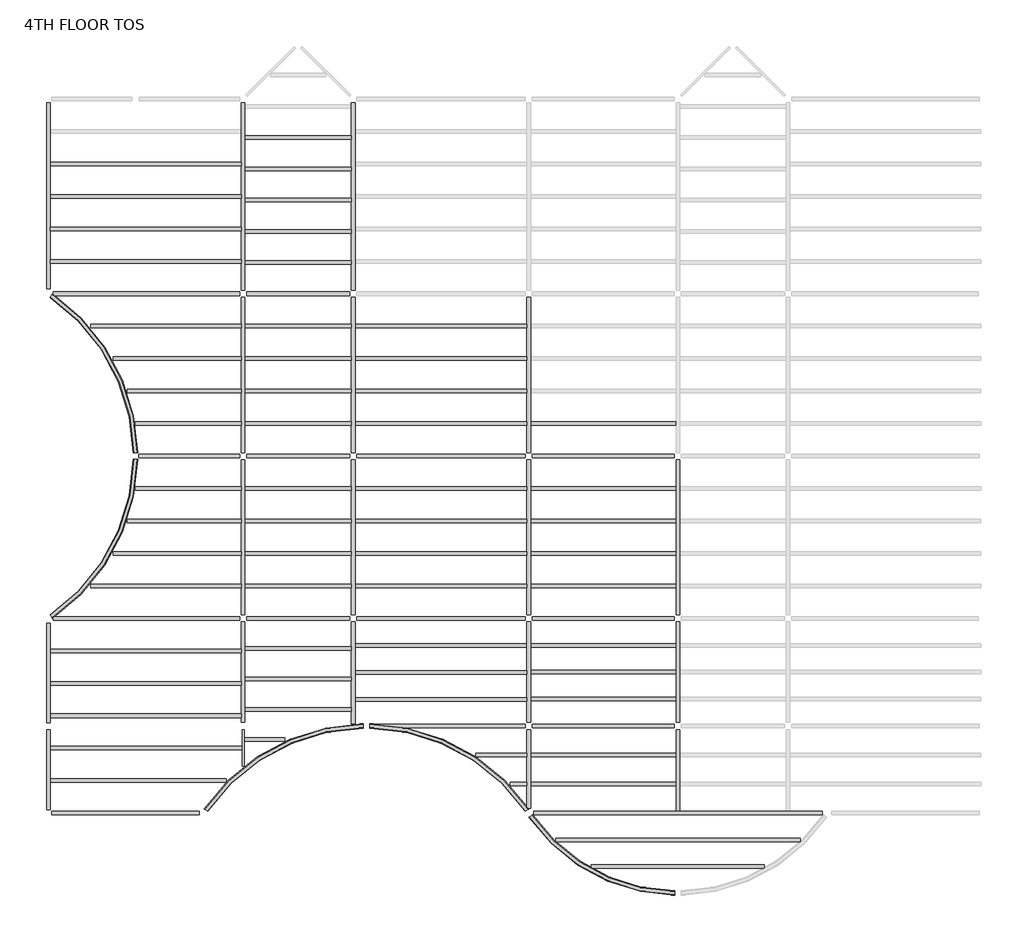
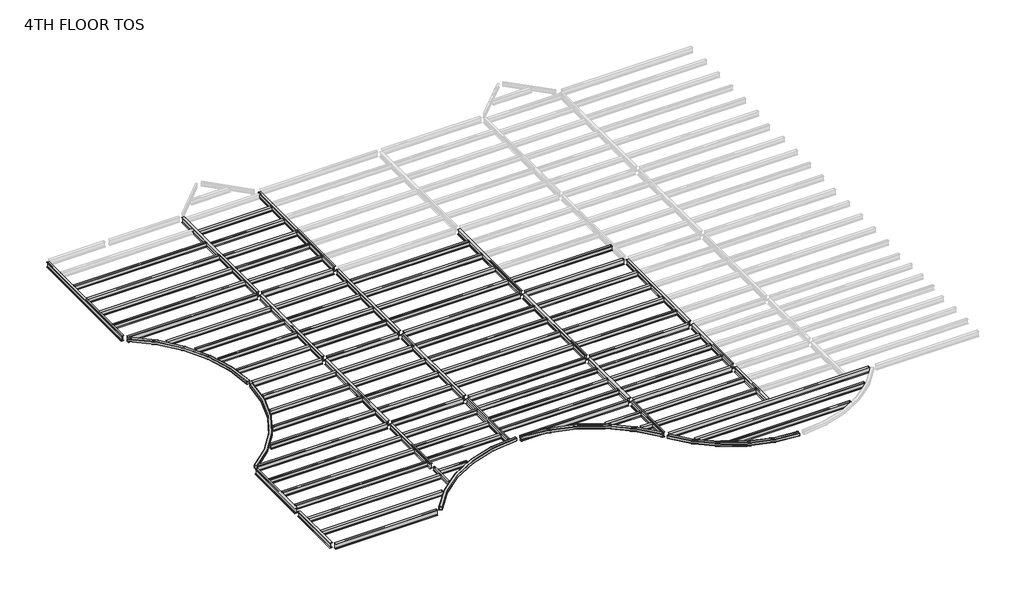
# One storey, part 1 of 2: 97 beams.
"""IFC4 building model written with IfcOpenShell, lengths in millimetres."""

from ifc_helpers import new_model, si_unit, origin, place, context, project, spatial, transform, mapped, element, save
from components import m_hss_square_hss203_2x203_2x9_5_914ff4eb, m_hss_square_hss203_2x203_2x9_5_0e3d8e6e, m_hss_square_hss203_2x203_2x9_5_16dc1c03, m_hss_square_hss203_2x203_2x9_5_18346204, m_hss_square_hss203_2x203_2x9_5_d5f1e8c4, ub_universal_beams_ub254x102x28_4e7f3726, ub_universal_beams_ub305x165x40_c4d0385b, ub_universal_beams_ub305x165x40_d3abc31d, ub_universal_beams_ub305x165x40_0c73730f, ub_universal_beams_ub305x165x40_2a963f0c, ub_universal_beams_ub305x165x40_0a5f2f96, ub_universal_beams_ub305x165x40_d1f7c369, ub_universal_beams_ub305x165x40_83d7b7d5, ub_universal_beams_ub305x165x40_729a4ea5, ub_universal_beams_ub305x165x40_71dfa851, ub_universal_beams_ub305x165x40_619b5398, ub_universal_beams_ub305x165x40_c3492db1, ub_universal_beams_ub305x165x40_8f1c350d, ub_universal_beams_ub305x165x40_3afb5f90, ub_universal_beams_ub305x165x40_767d1929, ub_universal_beams_ub305x165x40_5941ca45, ub_universal_beams_ub356x171x51_ef72dcdd, ub_universal_beams_ub356x171x51_7f80702c, ub_universal_beams_ub356x171x51_dfc36663, ub_universal_beams_ub356x171x51_405a853e, ub_universal_beams_ub356x171x51_e47b7055, ub_universal_beams_ub356x171x51_e97f8d2e, ub_universal_beams_ub356x171x51_11d6b780, ub_universal_beams_ub356x171x51_76b2d20b, ub_universal_beams_ub356x171x51_145ecd4b, ub_universal_beams_ub356x171x51_c7dff8d2, ub_universal_beams_ub356x171x51_834c6e34, ub_universal_beams_ub356x171x51_a38b99de, ub_universal_beams_ub356x171x51_d8f4cdde, ub_universal_beams_ub356x171x51_8094f821, ub_universal_beams_ub356x171x51_c03c70fb, ub_universal_beams_ub356x171x51_e661f2e4, ub_universal_beams_ub356x171x51_3ee91673, ub_universal_beams_ub356x171x51_a871b283, ub_universal_beams_ub356x171x51_741bae58

model = new_model("IFC4")

# Units and contexts
model_context = context("Model", 3, world=origin())
ifc_project = project(units=[si_unit("LENGTHUNIT", "METRE", prefix="MILLI")], contexts=[model_context])

# Site, building, storey
site = spatial("IfcSite", under=ifc_project)
building = spatial("IfcBuilding", under=site)
storey = spatial("IfcBuildingStorey", under=building, Name="4TH FLOOR TOS", Elevation=18135.6)

# Beams
placement = place(None, origin())
m_hss_square_hss203_2x203_2x9_5_shape = m_hss_square_hss203_2x203_2x9_5_914ff4eb(model_context)
element("IfcBeam", 1, ObjectType="M_HSS Square : HSS203.2X203.2X9.5", at=placement, inside=storey, context=model_context, shape_type="MappedRepresentation", body=[
    mapped(m_hss_square_hss203_2x203_2x9_5_shape, transform((22710.575, 155.575, 18034.1), x_axis=(-0.552849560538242, 0.8332810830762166, 0.0), y_axis=(-0.8332810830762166, -0.552849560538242, 0.0), z_axis=(0.0, 0.0, 1.0))),
])
m_hss_square_hss203_2x203_2x9_5_2_shape = m_hss_square_hss203_2x203_2x9_5_0e3d8e6e(model_context)
element("IfcBeam", 2, ObjectType="M_HSS Square : HSS203.2X203.2X9.5", at=placement, inside=storey, context=model_context, shape_type="MappedRepresentation", body=[
    mapped(m_hss_square_hss203_2x203_2x9_5_2_shape, transform((155.575, 9299.575, 18034.1), x_axis=(0.8332810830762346, 0.5528495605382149, 0.0), y_axis=(-0.5528495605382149, 0.8332810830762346, 0.0), z_axis=(0.0, 0.0, 1.0))),
])
m_hss_square_hss203_2x203_2x9_5_3_shape = m_hss_square_hss203_2x203_2x9_5_16dc1c03(model_context)
element("IfcBeam", 3, ObjectType="M_HSS Square : HSS203.2X203.2X9.5", at=placement, inside=storey, context=model_context, shape_type="MappedRepresentation", body=[
    mapped(m_hss_square_hss203_2x203_2x9_5_3_shape, transform((155.575, 24539.575, 18034.1), x_axis=(0.8332810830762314, -0.5528495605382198, 0.0), y_axis=(0.5528495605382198, 0.8332810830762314, 0.0), z_axis=(0.0, 0.0, 1.0))),
])
m_hss_square_hss203_2x203_2x9_5_4_shape = m_hss_square_hss203_2x203_2x9_5_18346204(model_context)
element("IfcBeam", 4, ObjectType="M_HSS Square : HSS203.2X203.2X9.5", at=placement, inside=storey, context=model_context, shape_type="MappedRepresentation", body=[
    mapped(m_hss_square_hss203_2x203_2x9_5_4_shape, transform((29734.7266693, -3601.398624, 18034.1), x_axis=(-0.9999968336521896, -0.0025164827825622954, 0.0), y_axis=(0.0025164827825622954, -0.9999968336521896, 0.0), z_axis=(0.0, 0.0, 1.0))),
])
m_hss_square_hss203_2x203_2x9_5_5_shape = m_hss_square_hss203_2x203_2x9_5_d5f1e8c4(model_context)
element("IfcBeam", 5, ObjectType="M_HSS Square : HSS203.2X203.2X9.5", at=placement, inside=storey, context=model_context, shape_type="MappedRepresentation", body=[
    mapped(m_hss_square_hss203_2x203_2x9_5_5_shape, transform((15096.4572854, 4244.5731081, 18034.1), x_axis=(-0.9999997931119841, 0.0006432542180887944, 0.0), y_axis=(-0.0006432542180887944, -0.9999997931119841, 0.0), z_axis=(0.0, 0.0, 1.0))),
])
ub_universal_beams_ub254x102x28_shape = ub_universal_beams_ub254x102x28_4e7f3726(model_context)
element("IfcBeam", 6, ObjectType="UB-Universal Beams : UB254x102x28", at=placement, inside=storey, context=model_context, shape_type="MappedRepresentation", body=[
    mapped(ub_universal_beams_ub254x102x28_shape, transform((9299.575, 3210.915913, 18005.4), x_axis=(0.0, -1.0, 0.0), y_axis=(1.0, 0.0, 0.0), z_axis=(0.0, 0.0, 1.0))),
])
ub_universal_beams_ub305x165x40_shape = ub_universal_beams_ub305x165x40_c4d0385b(model_context)
element("IfcBeam", 7, ObjectType="UB-Universal Beams : UB305x165x40", at=placement, inside=storey, context=model_context, shape_type="MappedRepresentation", body=[
    mapped(ub_universal_beams_ub305x165x40_shape, transform((4727.575, 30635.575, 17983.9), x_axis=(1.0, 0.0, 0.0), y_axis=(0.0, 1.0, 0.0), z_axis=(0.0, 0.0, 1.0))),
])
element("IfcBeam", 8, ObjectType="UB-Universal Beams : UB305x165x40", at=placement, inside=storey, context=model_context, shape_type="MappedRepresentation", body=[
    mapped(ub_universal_beams_ub305x165x40_shape, transform((4727.575, 29111.575, 17983.9), x_axis=(1.0, 0.0, 0.0), y_axis=(0.0, 1.0, 0.0), z_axis=(0.0, 0.0, 1.0))),
])
element("IfcBeam", 9, ObjectType="UB-Universal Beams : UB305x165x40", at=placement, inside=storey, context=model_context, shape_type="MappedRepresentation", body=[
    mapped(ub_universal_beams_ub305x165x40_shape, transform((4727.575, 27587.575, 17983.9), x_axis=(1.0, 0.0, 0.0), y_axis=(0.0, 1.0, 0.0), z_axis=(0.0, 0.0, 1.0))),
])
element("IfcBeam", 10, ObjectType="UB-Universal Beams : UB305x165x40", at=placement, inside=storey, context=model_context, shape_type="MappedRepresentation", body=[
    mapped(ub_universal_beams_ub305x165x40_shape, transform((4727.575, 26063.575, 17983.9), x_axis=(1.0, 0.0, 0.0), y_axis=(0.0, 1.0, 0.0), z_axis=(0.0, 0.0, 1.0))),
])
element("IfcBeam", 11, ObjectType="UB-Universal Beams : UB305x165x40", at=placement, inside=storey, context=model_context, shape_type="MappedRepresentation", body=[
    mapped(ub_universal_beams_ub305x165x40_shape, transform((4727.575, 4727.575, 17983.9), x_axis=(-1.0, 0.0, 0.0), y_axis=(0.0, -1.0, 0.0), z_axis=(0.0, 0.0, 1.0))),
])
element("IfcBeam", 12, ObjectType="UB-Universal Beams : UB305x165x40", at=placement, inside=storey, context=model_context, shape_type="MappedRepresentation", body=[
    mapped(ub_universal_beams_ub305x165x40_shape, transform((4727.575, 6251.575, 17983.9), x_axis=(-1.0, 0.0, 0.0), y_axis=(0.0, -1.0, 0.0), z_axis=(0.0, 0.0, 1.0))),
])
element("IfcBeam", 13, ObjectType="UB-Universal Beams : UB305x165x40", at=placement, inside=storey, context=model_context, shape_type="MappedRepresentation", body=[
    mapped(ub_universal_beams_ub305x165x40_shape, transform((4727.575, 7775.575, 17983.9), x_axis=(-1.0, 0.0, 0.0), y_axis=(0.0, -1.0, 0.0), z_axis=(0.0, 0.0, 1.0))),
])
ub_universal_beams_ub305x165x40_2_shape = ub_universal_beams_ub305x165x40_d3abc31d(model_context)
element("IfcBeam", 14, ObjectType="UB-Universal Beams : UB305x165x40", at=placement, inside=storey, context=model_context, shape_type="MappedRepresentation", body=[
    mapped(ub_universal_beams_ub305x165x40_2_shape, transform((11885.575, 31870.825, 17983.9), x_axis=(1.0, 0.0, 0.0), y_axis=(0.0, 1.0, 0.0), z_axis=(0.0, 0.0, 1.0))),
])
element("IfcBeam", 15, ObjectType="UB-Universal Beams : UB305x165x40", at=placement, inside=storey, context=model_context, shape_type="MappedRepresentation", body=[
    mapped(ub_universal_beams_ub305x165x40_2_shape, transform((11885.575, 30404.575, 17983.9), x_axis=(1.0, 0.0, 0.0), y_axis=(0.0, 1.0, 0.0), z_axis=(0.0, 0.0, 1.0))),
])
element("IfcBeam", 16, ObjectType="UB-Universal Beams : UB305x165x40", at=placement, inside=storey, context=model_context, shape_type="MappedRepresentation", body=[
    mapped(ub_universal_beams_ub305x165x40_2_shape, transform((11885.575, 28938.325, 17983.9), x_axis=(1.0, 0.0, 0.0), y_axis=(0.0, 1.0, 0.0), z_axis=(0.0, 0.0, 1.0))),
])
element("IfcBeam", 17, ObjectType="UB-Universal Beams : UB305x165x40", at=placement, inside=storey, context=model_context, shape_type="MappedRepresentation", body=[
    mapped(ub_universal_beams_ub305x165x40_2_shape, transform((11885.575, 27472.075, 17983.9), x_axis=(1.0, 0.0, 0.0), y_axis=(0.0, 1.0, 0.0), z_axis=(0.0, 0.0, 1.0))),
])
element("IfcBeam", 18, ObjectType="UB-Universal Beams : UB305x165x40", at=placement, inside=storey, context=model_context, shape_type="MappedRepresentation", body=[
    mapped(ub_universal_beams_ub305x165x40_2_shape, transform((11885.575, 26005.825, 17983.9), x_axis=(1.0, 0.0, 0.0), y_axis=(0.0, 1.0, 0.0), z_axis=(0.0, 0.0, 1.0))),
])
element("IfcBeam", 19, ObjectType="UB-Universal Beams : UB305x165x40", at=placement, inside=storey, context=model_context, shape_type="MappedRepresentation", body=[
    mapped(ub_universal_beams_ub305x165x40_2_shape, transform((11885.575, 23015.575, 17983.9), x_axis=(1.0, 0.0, 0.0), y_axis=(0.0, 1.0, 0.0), z_axis=(0.0, 0.0, 1.0))),
])
element("IfcBeam", 20, ObjectType="UB-Universal Beams : UB305x165x40", at=placement, inside=storey, context=model_context, shape_type="MappedRepresentation", body=[
    mapped(ub_universal_beams_ub305x165x40_2_shape, transform((11885.575, 21491.575, 17983.9), x_axis=(1.0, 0.0, 0.0), y_axis=(0.0, 1.0, 0.0), z_axis=(0.0, 0.0, 1.0))),
])
element("IfcBeam", 21, ObjectType="UB-Universal Beams : UB305x165x40", at=placement, inside=storey, context=model_context, shape_type="MappedRepresentation", body=[
    mapped(ub_universal_beams_ub305x165x40_2_shape, transform((11885.575, 19967.575, 17983.9), x_axis=(1.0, 0.0, 0.0), y_axis=(0.0, 1.0, 0.0), z_axis=(0.0, 0.0, 1.0))),
])
element("IfcBeam", 22, ObjectType="UB-Universal Beams : UB305x165x40", at=placement, inside=storey, context=model_context, shape_type="MappedRepresentation", body=[
    mapped(ub_universal_beams_ub305x165x40_2_shape, transform((11885.575, 18443.575, 17983.9), x_axis=(1.0, 0.0, 0.0), y_axis=(0.0, 1.0, 0.0), z_axis=(0.0, 0.0, 1.0))),
])
element("IfcBeam", 23, ObjectType="UB-Universal Beams : UB305x165x40", at=placement, inside=storey, context=model_context, shape_type="MappedRepresentation", body=[
    mapped(ub_universal_beams_ub305x165x40_2_shape, transform((11885.575, 15395.575, 17983.9), x_axis=(1.0, 0.0, 0.0), y_axis=(0.0, 1.0, 0.0), z_axis=(0.0, 0.0, 1.0))),
])
element("IfcBeam", 24, ObjectType="UB-Universal Beams : UB305x165x40", at=placement, inside=storey, context=model_context, shape_type="MappedRepresentation", body=[
    mapped(ub_universal_beams_ub305x165x40_2_shape, transform((11885.575, 13871.575, 17983.9), x_axis=(1.0, 0.0, 0.0), y_axis=(0.0, 1.0, 0.0), z_axis=(0.0, 0.0, 1.0))),
])
element("IfcBeam", 25, ObjectType="UB-Universal Beams : UB305x165x40", at=placement, inside=storey, context=model_context, shape_type="MappedRepresentation", body=[
    mapped(ub_universal_beams_ub305x165x40_2_shape, transform((11885.575, 12347.575, 17983.9), x_axis=(1.0, 0.0, 0.0), y_axis=(0.0, 1.0, 0.0), z_axis=(0.0, 0.0, 1.0))),
])
element("IfcBeam", 26, ObjectType="UB-Universal Beams : UB305x165x40", at=placement, inside=storey, context=model_context, shape_type="MappedRepresentation", body=[
    mapped(ub_universal_beams_ub305x165x40_2_shape, transform((11885.575, 10823.575, 17983.9), x_axis=(1.0, 0.0, 0.0), y_axis=(0.0, 1.0, 0.0), z_axis=(0.0, 0.0, 1.0))),
])
element("IfcBeam", 27, ObjectType="UB-Universal Beams : UB305x165x40", at=placement, inside=storey, context=model_context, shape_type="MappedRepresentation", body=[
    mapped(ub_universal_beams_ub305x165x40_2_shape, transform((11885.575, 5026.1840956, 17983.9), x_axis=(-1.0, 0.0, 0.0), y_axis=(0.0, -1.0, 0.0), z_axis=(0.0, 0.0, 1.0))),
])
element("IfcBeam", 28, ObjectType="UB-Universal Beams : UB305x165x40", at=placement, inside=storey, context=model_context, shape_type="MappedRepresentation", body=[
    mapped(ub_universal_beams_ub305x165x40_2_shape, transform((11885.575, 6450.6477304, 17983.9), x_axis=(-1.0, 0.0, 0.0), y_axis=(0.0, -1.0, 0.0), z_axis=(0.0, 0.0, 1.0))),
])
element("IfcBeam", 29, ObjectType="UB-Universal Beams : UB305x165x40", at=placement, inside=storey, context=model_context, shape_type="MappedRepresentation", body=[
    mapped(ub_universal_beams_ub305x165x40_2_shape, transform((11885.575, 7875.1113652, 17983.9), x_axis=(-1.0, 0.0, 0.0), y_axis=(0.0, -1.0, 0.0), z_axis=(0.0, 0.0, 1.0))),
])
ub_universal_beams_ub305x165x40_3_shape = ub_universal_beams_ub305x165x40_0c73730f(model_context)
element("IfcBeam", 30, ObjectType="UB-Universal Beams : UB305x165x40", at=placement, inside=storey, context=model_context, shape_type="MappedRepresentation", body=[
    mapped(ub_universal_beams_ub305x165x40_3_shape, transform((18591.075, 5492.5943214, 17983.9), x_axis=(-1.0, 0.0, 0.0), y_axis=(0.0, -1.0, 0.0), z_axis=(0.0, 0.0, 1.0))),
])
element("IfcBeam", 31, ObjectType="UB-Universal Beams : UB305x165x40", at=placement, inside=storey, context=model_context, shape_type="MappedRepresentation", body=[
    mapped(ub_universal_beams_ub305x165x40_3_shape, transform((18591.075, 6761.5878809, 17983.9), x_axis=(-1.0, 0.0, 0.0), y_axis=(0.0, -1.0, 0.0), z_axis=(0.0, 0.0, 1.0))),
])
element("IfcBeam", 32, ObjectType="UB-Universal Beams : UB305x165x40", at=placement, inside=storey, context=model_context, shape_type="MappedRepresentation", body=[
    mapped(ub_universal_beams_ub305x165x40_3_shape, transform((18591.075, 8030.5814405, 17983.9), x_axis=(-1.0, 0.0, 0.0), y_axis=(0.0, -1.0, 0.0), z_axis=(0.0, 0.0, 1.0))),
])
element("IfcBeam", 33, ObjectType="UB-Universal Beams : UB305x165x40", at=placement, inside=storey, context=model_context, shape_type="MappedRepresentation", body=[
    mapped(ub_universal_beams_ub305x165x40_3_shape, transform((18591.075, 15395.575, 17983.9), x_axis=(1.0, 0.0, 0.0), y_axis=(0.0, 1.0, 0.0), z_axis=(0.0, 0.0, 1.0))),
])
element("IfcBeam", 34, ObjectType="UB-Universal Beams : UB305x165x40", at=placement, inside=storey, context=model_context, shape_type="MappedRepresentation", body=[
    mapped(ub_universal_beams_ub305x165x40_3_shape, transform((18591.075, 13871.575, 17983.9), x_axis=(1.0, 0.0, 0.0), y_axis=(0.0, 1.0, 0.0), z_axis=(0.0, 0.0, 1.0))),
])
element("IfcBeam", 35, ObjectType="UB-Universal Beams : UB305x165x40", at=placement, inside=storey, context=model_context, shape_type="MappedRepresentation", body=[
    mapped(ub_universal_beams_ub305x165x40_3_shape, transform((18591.075, 12347.575, 17983.9), x_axis=(1.0, 0.0, 0.0), y_axis=(0.0, 1.0, 0.0), z_axis=(0.0, 0.0, 1.0))),
])
element("IfcBeam", 36, ObjectType="UB-Universal Beams : UB305x165x40", at=placement, inside=storey, context=model_context, shape_type="MappedRepresentation", body=[
    mapped(ub_universal_beams_ub305x165x40_3_shape, transform((18591.075, 10823.575, 17983.9), x_axis=(1.0, 0.0, 0.0), y_axis=(0.0, 1.0, 0.0), z_axis=(0.0, 0.0, 1.0))),
])
element("IfcBeam", 37, ObjectType="UB-Universal Beams : UB305x165x40", at=placement, inside=storey, context=model_context, shape_type="MappedRepresentation", body=[
    mapped(ub_universal_beams_ub305x165x40_3_shape, transform((18591.075, 23015.575, 17983.9), x_axis=(1.0, 0.0, 0.0), y_axis=(0.0, 1.0, 0.0), z_axis=(0.0, 0.0, 1.0))),
])
element("IfcBeam", 38, ObjectType="UB-Universal Beams : UB305x165x40", at=placement, inside=storey, context=model_context, shape_type="MappedRepresentation", body=[
    mapped(ub_universal_beams_ub305x165x40_3_shape, transform((18591.075, 21491.575, 17983.9), x_axis=(1.0, 0.0, 0.0), y_axis=(0.0, 1.0, 0.0), z_axis=(0.0, 0.0, 1.0))),
])
element("IfcBeam", 39, ObjectType="UB-Universal Beams : UB305x165x40", at=placement, inside=storey, context=model_context, shape_type="MappedRepresentation", body=[
    mapped(ub_universal_beams_ub305x165x40_3_shape, transform((18591.075, 19967.575, 17983.9), x_axis=(1.0, 0.0, 0.0), y_axis=(0.0, 1.0, 0.0), z_axis=(0.0, 0.0, 1.0))),
])
element("IfcBeam", 40, ObjectType="UB-Universal Beams : UB305x165x40", at=placement, inside=storey, context=model_context, shape_type="MappedRepresentation", body=[
    mapped(ub_universal_beams_ub305x165x40_3_shape, transform((18591.075, 18443.575, 17983.9), x_axis=(1.0, 0.0, 0.0), y_axis=(0.0, 1.0, 0.0), z_axis=(0.0, 0.0, 1.0))),
])
ub_universal_beams_ub305x165x40_4_shape = ub_universal_beams_ub305x165x40_2a963f0c(model_context)
element("IfcBeam", 41, ObjectType="UB-Universal Beams : UB305x165x40", at=placement, inside=storey, context=model_context, shape_type="MappedRepresentation", body=[
    mapped(ub_universal_beams_ub305x165x40_4_shape, transform((26211.075, 18443.575, 17983.9), x_axis=(1.0, 0.0, 0.0), y_axis=(0.0, 1.0, 0.0), z_axis=(0.0, 0.0, 1.0))),
])
element("IfcBeam", 42, ObjectType="UB-Universal Beams : UB305x165x40", at=placement, inside=storey, context=model_context, shape_type="MappedRepresentation", body=[
    mapped(ub_universal_beams_ub305x165x40_4_shape, transform((26211.075, 15395.575, 17983.9), x_axis=(1.0, 0.0, 0.0), y_axis=(0.0, 1.0, 0.0), z_axis=(0.0, 0.0, 1.0))),
])
element("IfcBeam", 43, ObjectType="UB-Universal Beams : UB305x165x40", at=placement, inside=storey, context=model_context, shape_type="MappedRepresentation", body=[
    mapped(ub_universal_beams_ub305x165x40_4_shape, transform((26211.075, 13871.575, 17983.9), x_axis=(1.0, 0.0, 0.0), y_axis=(0.0, 1.0, 0.0), z_axis=(0.0, 0.0, 1.0))),
])
element("IfcBeam", 44, ObjectType="UB-Universal Beams : UB305x165x40", at=placement, inside=storey, context=model_context, shape_type="MappedRepresentation", body=[
    mapped(ub_universal_beams_ub305x165x40_4_shape, transform((26211.075, 12347.575, 17983.9), x_axis=(1.0, 0.0, 0.0), y_axis=(0.0, 1.0, 0.0), z_axis=(0.0, 0.0, 1.0))),
])
element("IfcBeam", 45, ObjectType="UB-Universal Beams : UB305x165x40", at=placement, inside=storey, context=model_context, shape_type="MappedRepresentation", body=[
    mapped(ub_universal_beams_ub305x165x40_4_shape, transform((26211.075, 10823.575, 17983.9), x_axis=(1.0, 0.0, 0.0), y_axis=(0.0, 1.0, 0.0), z_axis=(0.0, 0.0, 1.0))),
])
element("IfcBeam", 46, ObjectType="UB-Universal Beams : UB305x165x40", at=placement, inside=storey, context=model_context, shape_type="MappedRepresentation", body=[
    mapped(ub_universal_beams_ub305x165x40_4_shape, transform((26211.075, 5508.325, 17983.9), x_axis=(-1.0, 0.0, 0.0), y_axis=(0.0, -1.0, 0.0), z_axis=(0.0, 0.0, 1.0))),
])
element("IfcBeam", 47, ObjectType="UB-Universal Beams : UB305x165x40", at=placement, inside=storey, context=model_context, shape_type="MappedRepresentation", body=[
    mapped(ub_universal_beams_ub305x165x40_4_shape, transform((26211.075, 6772.075, 17983.9), x_axis=(-1.0, 0.0, 0.0), y_axis=(0.0, -1.0, 0.0), z_axis=(0.0, 0.0, 1.0))),
])
element("IfcBeam", 48, ObjectType="UB-Universal Beams : UB305x165x40", at=placement, inside=storey, context=model_context, shape_type="MappedRepresentation", body=[
    mapped(ub_universal_beams_ub305x165x40_4_shape, transform((26211.075, 8035.825, 17983.9), x_axis=(-1.0, 0.0, 0.0), y_axis=(0.0, -1.0, 0.0), z_axis=(0.0, 0.0, 1.0))),
])
element("IfcBeam", 49, ObjectType="UB-Universal Beams : UB305x165x40", at=placement, inside=storey, context=model_context, shape_type="MappedRepresentation", body=[
    mapped(ub_universal_beams_ub305x165x40_4_shape, transform((26211.075, 1518.575, 17983.9), x_axis=(-1.0, 0.0, 0.0), y_axis=(0.0, -1.0, 0.0), z_axis=(0.0, 0.0, 1.0))),
])
element("IfcBeam", 50, ObjectType="UB-Universal Beams : UB305x165x40", at=placement, inside=storey, context=model_context, shape_type="MappedRepresentation", body=[
    mapped(ub_universal_beams_ub305x165x40_4_shape, transform((26211.075, 2881.575, 17983.9), x_axis=(-1.0, 0.0, 0.0), y_axis=(0.0, -1.0, 0.0), z_axis=(0.0, 0.0, 1.0))),
])
ub_universal_beams_ub305x165x40_5_shape = ub_universal_beams_ub305x165x40_0a5f2f96(model_context)
element("IfcBeam", 51, ObjectType="UB-Universal Beams : UB305x165x40", at=placement, inside=storey, context=model_context, shape_type="MappedRepresentation", body=[
    mapped(ub_universal_beams_ub305x165x40_5_shape, transform((29713.575, -2349.0918253, 17983.9), x_axis=(-1.0, 0.0, 0.0), y_axis=(0.0, -1.0, 0.0), z_axis=(0.0, 0.0, 1.0))),
])
ub_universal_beams_ub305x165x40_6_shape = ub_universal_beams_ub305x165x40_d1f7c369(model_context)
element("IfcBeam", 52, ObjectType="UB-Universal Beams : UB305x165x40", at=placement, inside=storey, context=model_context, shape_type="MappedRepresentation", body=[
    mapped(ub_universal_beams_ub305x165x40_6_shape, transform((29713.575, -1096.7584126, 17983.9), x_axis=(-1.0, 0.0, 0.0), y_axis=(0.0, -1.0, 0.0), z_axis=(0.0, 0.0, 1.0))),
])
ub_universal_beams_ub305x165x40_7_shape = ub_universal_beams_ub305x165x40_83d7b7d5(model_context)
element("IfcBeam", 53, ObjectType="UB-Universal Beams : UB305x165x40", at=placement, inside=storey, context=model_context, shape_type="MappedRepresentation", body=[
    mapped(ub_universal_beams_ub305x165x40_7_shape, transform((22157.3041106, 1518.575, 17983.9), x_axis=(-1.0, 0.0, 0.0), y_axis=(0.0, -1.0, 0.0), z_axis=(0.0, 0.0, 1.0))),
])
ub_universal_beams_ub305x165x40_8_shape = ub_universal_beams_ub305x165x40_729a4ea5(model_context)
element("IfcBeam", 54, ObjectType="UB-Universal Beams : UB305x165x40", at=placement, inside=storey, context=model_context, shape_type="MappedRepresentation", body=[
    mapped(ub_universal_beams_ub305x165x40_8_shape, transform((21302.1545844, 2881.575, 17983.9), x_axis=(-1.0, 0.0, 0.0), y_axis=(0.0, -1.0, 0.0), z_axis=(0.0, 0.0, 1.0))),
])
ub_universal_beams_ub305x165x40_9_shape = ub_universal_beams_ub305x165x40_71dfa851(model_context)
element("IfcBeam", 55, ObjectType="UB-Universal Beams : UB305x165x40", at=placement, inside=storey, context=model_context, shape_type="MappedRepresentation", body=[
    mapped(ub_universal_beams_ub305x165x40_9_shape, transform((10511.0323166, 3601.7204608, 17983.9), x_axis=(-1.0, 0.0, 0.0), y_axis=(0.0, -1.0, 0.0), z_axis=(0.0, 0.0, 1.0))),
])
ub_universal_beams_ub305x165x40_10_shape = ub_universal_beams_ub305x165x40_619b5398(model_context)
element("IfcBeam", 56, ObjectType="UB-Universal Beams : UB305x165x40", at=placement, inside=storey, context=model_context, shape_type="MappedRepresentation", body=[
    mapped(ub_universal_beams_ub305x165x40_10_shape, transform((4447.6838282, 1679.575, 17983.9), x_axis=(-1.0, 0.0, 0.0), y_axis=(0.0, -1.0, 0.0), z_axis=(0.0, 0.0, 1.0))),
])
ub_universal_beams_ub305x165x40_11_shape = ub_universal_beams_ub305x165x40_c3492db1(model_context)
element("IfcBeam", 57, ObjectType="UB-Universal Beams : UB305x165x40", at=placement, inside=storey, context=model_context, shape_type="MappedRepresentation", body=[
    mapped(ub_universal_beams_ub305x165x40_11_shape, transform((4727.575, 3203.575, 17983.9), x_axis=(-1.0, 0.0, 0.0), y_axis=(0.0, -1.0, 0.0), z_axis=(0.0, 0.0, 1.0))),
])
ub_universal_beams_ub305x165x40_12_shape = ub_universal_beams_ub305x165x40_8f1c350d(model_context)
element("IfcBeam", 58, ObjectType="UB-Universal Beams : UB305x165x40", at=placement, inside=storey, context=model_context, shape_type="MappedRepresentation", body=[
    mapped(ub_universal_beams_ub305x165x40_12_shape, transform((6708.1318611, 15395.575, 17983.9), x_axis=(1.0, 0.0, 0.0), y_axis=(0.0, 1.0, 0.0), z_axis=(0.0, 0.0, 1.0))),
])
element("IfcBeam", 59, ObjectType="UB-Universal Beams : UB305x165x40", at=placement, inside=storey, context=model_context, shape_type="MappedRepresentation", body=[
    mapped(ub_universal_beams_ub305x165x40_12_shape, transform((6708.1318611, 18443.575, 17983.9), x_axis=(1.0, 0.0, 0.0), y_axis=(0.0, 1.0, 0.0), z_axis=(0.0, 0.0, 1.0))),
])
ub_universal_beams_ub305x165x40_13_shape = ub_universal_beams_ub305x165x40_3afb5f90(model_context)
element("IfcBeam", 60, ObjectType="UB-Universal Beams : UB305x165x40", at=placement, inside=storey, context=model_context, shape_type="MappedRepresentation", body=[
    mapped(ub_universal_beams_ub305x165x40_13_shape, transform((6510.6153272, 13871.575, 17983.9), x_axis=(1.0, 0.0, 0.0), y_axis=(0.0, 1.0, 0.0), z_axis=(0.0, 0.0, 1.0))),
])
element("IfcBeam", 61, ObjectType="UB-Universal Beams : UB305x165x40", at=placement, inside=storey, context=model_context, shape_type="MappedRepresentation", body=[
    mapped(ub_universal_beams_ub305x165x40_13_shape, transform((6510.6153272, 19967.575, 17983.9), x_axis=(1.0, 0.0, 0.0), y_axis=(0.0, 1.0, 0.0), z_axis=(0.0, 0.0, 1.0))),
])
ub_universal_beams_ub305x165x40_14_shape = ub_universal_beams_ub305x165x40_767d1929(model_context)
element("IfcBeam", 62, ObjectType="UB-Universal Beams : UB305x165x40", at=placement, inside=storey, context=model_context, shape_type="MappedRepresentation", body=[
    mapped(ub_universal_beams_ub305x165x40_14_shape, transform((6159.5874928, 12347.575, 17983.9), x_axis=(1.0, 0.0, 0.0), y_axis=(0.0, 1.0, 0.0), z_axis=(0.0, 0.0, 1.0))),
])
element("IfcBeam", 63, ObjectType="UB-Universal Beams : UB305x165x40", at=placement, inside=storey, context=model_context, shape_type="MappedRepresentation", body=[
    mapped(ub_universal_beams_ub305x165x40_14_shape, transform((6159.5874928, 21491.575, 17983.9), x_axis=(1.0, 0.0, 0.0), y_axis=(0.0, 1.0, 0.0), z_axis=(0.0, 0.0, 1.0))),
])
ub_universal_beams_ub305x165x40_15_shape = ub_universal_beams_ub305x165x40_5941ca45(model_context)
element("IfcBeam", 64, ObjectType="UB-Universal Beams : UB305x165x40", at=placement, inside=storey, context=model_context, shape_type="MappedRepresentation", body=[
    mapped(ub_universal_beams_ub305x165x40_15_shape, transform((5607.9405309, 10823.575, 17983.9), x_axis=(1.0, 0.0, 0.0), y_axis=(0.0, 1.0, 0.0), z_axis=(0.0, 0.0, 1.0))),
])
element("IfcBeam", 65, ObjectType="UB-Universal Beams : UB305x165x40", at=placement, inside=storey, context=model_context, shape_type="MappedRepresentation", body=[
    mapped(ub_universal_beams_ub305x165x40_15_shape, transform((5607.9405309, 23015.575, 17983.9), x_axis=(1.0, 0.0, 0.0), y_axis=(0.0, 1.0, 0.0), z_axis=(0.0, 0.0, 1.0))),
])
ub_universal_beams_ub356x171x51_shape = ub_universal_beams_ub356x171x51_ef72dcdd(model_context)
element("IfcBeam", 66, ObjectType="UB-Universal Beams : UB356x171x51", at=placement, inside=storey, context=model_context, shape_type="MappedRepresentation", body=[
    mapped(ub_universal_beams_ub356x171x51_shape, transform((9299.575, 6772.075, 17958.1), x_axis=(0.0, -1.0, 0.0), y_axis=(1.0, 0.0, 0.0), z_axis=(0.0, 0.0, 1.0))),
])
element("IfcBeam", 67, ObjectType="UB-Universal Beams : UB356x171x51", at=placement, inside=storey, context=model_context, shape_type="MappedRepresentation", body=[
    mapped(ub_universal_beams_ub356x171x51_shape, transform((29711.575, 6772.075, 17958.1), x_axis=(0.0, 1.0, 0.0), y_axis=(-1.0, 0.0, 0.0), z_axis=(0.0, 0.0, 1.0))),
])
element("IfcBeam", 68, ObjectType="UB-Universal Beams : UB356x171x51", at=placement, inside=storey, context=model_context, shape_type="MappedRepresentation", body=[
    mapped(ub_universal_beams_ub356x171x51_shape, transform((22710.575, 6772.075, 17958.1), x_axis=(0.0, -1.0, 0.0), y_axis=(1.0, 0.0, 0.0), z_axis=(0.0, 0.0, 1.0))),
])
ub_universal_beams_ub356x171x51_2_shape = ub_universal_beams_ub356x171x51_7f80702c(model_context)
element("IfcBeam", 69, ObjectType="UB-Universal Beams : UB356x171x51", at=placement, inside=storey, context=model_context, shape_type="MappedRepresentation", body=[
    mapped(ub_universal_beams_ub356x171x51_2_shape, transform((3813.075, 155.575, 17958.1), x_axis=(-1.0, 0.0, 0.0), y_axis=(0.0, -1.0, 0.0), z_axis=(0.0, 0.0, 1.0))),
])
ub_universal_beams_ub356x171x51_3_shape = ub_universal_beams_ub356x171x51_dfc36663(model_context)
element("IfcBeam", 70, ObjectType="UB-Universal Beams : UB356x171x51", at=placement, inside=storey, context=model_context, shape_type="MappedRepresentation", body=[
    mapped(ub_universal_beams_ub356x171x51_3_shape, transform((155.575, 2200.075, 17958.1), x_axis=(0.0, 1.0, 0.0), y_axis=(-1.0, 0.0, 0.0), z_axis=(0.0, 0.0, 1.0))),
])
ub_universal_beams_ub356x171x51_4_shape = ub_universal_beams_ub356x171x51_405a853e(model_context)
element("IfcBeam", 71, ObjectType="UB-Universal Beams : UB356x171x51", at=placement, inside=storey, context=model_context, shape_type="MappedRepresentation", body=[
    mapped(ub_universal_beams_ub356x171x51_4_shape, transform((155.575, 6772.075, 17958.1), x_axis=(0.0, 1.0, 0.0), y_axis=(-1.0, 0.0, 0.0), z_axis=(0.0, 0.0, 1.0))),
])
ub_universal_beams_ub356x171x51_5_shape = ub_universal_beams_ub356x171x51_e47b7055(model_context)
element("IfcBeam", 72, ObjectType="UB-Universal Beams : UB356x171x51", at=placement, inside=storey, context=model_context, shape_type="MappedRepresentation", body=[
    mapped(ub_universal_beams_ub356x171x51_5_shape, transform((155.575, 29111.575, 17958.1), x_axis=(0.0, 1.0, 0.0), y_axis=(-1.0, 0.0, 0.0), z_axis=(0.0, 0.0, 1.0))),
])
ub_universal_beams_ub356x171x51_6_shape = ub_universal_beams_ub356x171x51_e97f8d2e(model_context)
element("IfcBeam", 73, ObjectType="UB-Universal Beams : UB356x171x51", at=placement, inside=storey, context=model_context, shape_type="MappedRepresentation", body=[
    mapped(ub_universal_beams_ub356x171x51_6_shape, transform((4727.575, 24539.575, 17958.1), x_axis=(1.0, 0.0, 0.0), y_axis=(0.0, 1.0, 0.0), z_axis=(0.0, 0.0, 1.0))),
])
ub_universal_beams_ub356x171x51_7_shape = ub_universal_beams_ub356x171x51_11d6b780(model_context)
element("IfcBeam", 74, ObjectType="UB-Universal Beams : UB356x171x51", at=placement, inside=storey, context=model_context, shape_type="MappedRepresentation", body=[
    mapped(ub_universal_beams_ub356x171x51_7_shape, transform((11885.575, 24539.575, 17958.1), x_axis=(1.0, 0.0, 0.0), y_axis=(0.0, 1.0, 0.0), z_axis=(0.0, 0.0, 1.0))),
])
element("IfcBeam", 75, ObjectType="UB-Universal Beams : UB356x171x51", at=placement, inside=storey, context=model_context, shape_type="MappedRepresentation", body=[
    mapped(ub_universal_beams_ub356x171x51_7_shape, transform((11885.575, 9299.575, 17958.1), x_axis=(-1.0, 0.0, 0.0), y_axis=(0.0, -1.0, 0.0), z_axis=(0.0, 0.0, 1.0))),
])
element("IfcBeam", 76, ObjectType="UB-Universal Beams : UB356x171x51", at=placement, inside=storey, context=model_context, shape_type="MappedRepresentation", body=[
    mapped(ub_universal_beams_ub356x171x51_7_shape, transform((11885.575, 16919.575, 17958.1), x_axis=(1.0, 0.0, 0.0), y_axis=(0.0, 1.0, 0.0), z_axis=(0.0, 0.0, 1.0))),
])
ub_universal_beams_ub356x171x51_8_shape = ub_universal_beams_ub356x171x51_76b2d20b(model_context)
element("IfcBeam", 77, ObjectType="UB-Universal Beams : UB356x171x51", at=placement, inside=storey, context=model_context, shape_type="MappedRepresentation", body=[
    mapped(ub_universal_beams_ub356x171x51_8_shape, transform((18591.075, 9299.575, 17958.1), x_axis=(-1.0, 0.0, 0.0), y_axis=(0.0, -1.0, 0.0), z_axis=(0.0, 0.0, 1.0))),
])
element("IfcBeam", 78, ObjectType="UB-Universal Beams : UB356x171x51", at=placement, inside=storey, context=model_context, shape_type="MappedRepresentation", body=[
    mapped(ub_universal_beams_ub356x171x51_8_shape, transform((18591.075, 16919.575, 17958.1), x_axis=(1.0, 0.0, 0.0), y_axis=(0.0, 1.0, 0.0), z_axis=(0.0, 0.0, 1.0))),
])
ub_universal_beams_ub356x171x51_9_shape = ub_universal_beams_ub356x171x51_145ecd4b(model_context)
element("IfcBeam", 79, ObjectType="UB-Universal Beams : UB356x171x51", at=placement, inside=storey, context=model_context, shape_type="MappedRepresentation", body=[
    mapped(ub_universal_beams_ub356x171x51_9_shape, transform((26211.075, 9299.575, 17958.1), x_axis=(-1.0, 0.0, 0.0), y_axis=(0.0, -1.0, 0.0), z_axis=(0.0, 0.0, 1.0))),
])
element("IfcBeam", 80, ObjectType="UB-Universal Beams : UB356x171x51", at=placement, inside=storey, context=model_context, shape_type="MappedRepresentation", body=[
    mapped(ub_universal_beams_ub356x171x51_9_shape, transform((26211.075, 16919.575, 17958.1), x_axis=(1.0, 0.0, 0.0), y_axis=(0.0, 1.0, 0.0), z_axis=(0.0, 0.0, 1.0))),
])
element("IfcBeam", 81, ObjectType="UB-Universal Beams : UB356x171x51", at=placement, inside=storey, context=model_context, shape_type="MappedRepresentation", body=[
    mapped(ub_universal_beams_ub356x171x51_9_shape, transform((26211.075, 4244.575, 17958.1), x_axis=(-1.0, 0.0, 0.0), y_axis=(0.0, -1.0, 0.0), z_axis=(0.0, 0.0, 1.0))),
])
ub_universal_beams_ub356x171x51_10_shape = ub_universal_beams_ub356x171x51_c7dff8d2(model_context)
element("IfcBeam", 82, ObjectType="UB-Universal Beams : UB356x171x51", at=placement, inside=storey, context=model_context, shape_type="MappedRepresentation", body=[
    mapped(ub_universal_beams_ub356x171x51_10_shape, transform((4727.575, 9299.575, 17958.1), x_axis=(-1.0, 0.0, 0.0), y_axis=(0.0, -1.0, 0.0), z_axis=(0.0, 0.0, 1.0))),
])
ub_universal_beams_ub356x171x51_11_shape = ub_universal_beams_ub356x171x51_834c6e34(model_context)
element("IfcBeam", 83, ObjectType="UB-Universal Beams : UB356x171x51", at=placement, inside=storey, context=model_context, shape_type="MappedRepresentation", body=[
    mapped(ub_universal_beams_ub356x171x51_11_shape, transform((14471.575, 6761.5878809, 17958.1), x_axis=(0.0, -1.0, 0.0), y_axis=(1.0, 0.0, 0.0), z_axis=(0.0, 0.0, 1.0))),
])
ub_universal_beams_ub356x171x51_12_shape = ub_universal_beams_ub356x171x51_a38b99de(model_context)
element("IfcBeam", 84, ObjectType="UB-Universal Beams : UB356x171x51", at=placement, inside=storey, context=model_context, shape_type="MappedRepresentation", body=[
    mapped(ub_universal_beams_ub356x171x51_12_shape, transform((9299.575, 13109.575, 17958.1), x_axis=(0.0, 1.0, 0.0), y_axis=(-1.0, 0.0, 0.0), z_axis=(0.0, 0.0, 1.0))),
])
element("IfcBeam", 85, ObjectType="UB-Universal Beams : UB356x171x51", at=placement, inside=storey, context=model_context, shape_type="MappedRepresentation", body=[
    mapped(ub_universal_beams_ub356x171x51_12_shape, transform((9299.575, 20729.575, 17958.1), x_axis=(0.0, 1.0, 0.0), y_axis=(-1.0, 0.0, 0.0), z_axis=(0.0, 0.0, 1.0))),
])
element("IfcBeam", 86, ObjectType="UB-Universal Beams : UB356x171x51", at=placement, inside=storey, context=model_context, shape_type="MappedRepresentation", body=[
    mapped(ub_universal_beams_ub356x171x51_12_shape, transform((14471.575, 20729.575, 17958.1), x_axis=(0.0, -1.0, 0.0), y_axis=(1.0, 0.0, 0.0), z_axis=(0.0, 0.0, 1.0))),
])
element("IfcBeam", 87, ObjectType="UB-Universal Beams : UB356x171x51", at=placement, inside=storey, context=model_context, shape_type="MappedRepresentation", body=[
    mapped(ub_universal_beams_ub356x171x51_12_shape, transform((14471.575, 13109.575, 17958.1), x_axis=(0.0, -1.0, 0.0), y_axis=(1.0, 0.0, 0.0), z_axis=(0.0, 0.0, 1.0))),
])
element("IfcBeam", 88, ObjectType="UB-Universal Beams : UB356x171x51", at=placement, inside=storey, context=model_context, shape_type="MappedRepresentation", body=[
    mapped(ub_universal_beams_ub356x171x51_12_shape, transform((22710.575, 20729.575, 17958.1), x_axis=(0.0, -1.0, 0.0), y_axis=(1.0, 0.0, 0.0), z_axis=(0.0, 0.0, 1.0))),
])
element("IfcBeam", 89, ObjectType="UB-Universal Beams : UB356x171x51", at=placement, inside=storey, context=model_context, shape_type="MappedRepresentation", body=[
    mapped(ub_universal_beams_ub356x171x51_12_shape, transform((22710.575, 13109.575, 17958.1), x_axis=(0.0, -1.0, 0.0), y_axis=(1.0, 0.0, 0.0), z_axis=(0.0, 0.0, 1.0))),
])
element("IfcBeam", 90, ObjectType="UB-Universal Beams : UB356x171x51", at=placement, inside=storey, context=model_context, shape_type="MappedRepresentation", body=[
    mapped(ub_universal_beams_ub356x171x51_12_shape, transform((29711.575, 13109.575, 17958.1), x_axis=(0.0, 1.0, 0.0), y_axis=(-1.0, 0.0, 0.0), z_axis=(0.0, 0.0, 1.0))),
])
ub_universal_beams_ub356x171x51_13_shape = ub_universal_beams_ub356x171x51_d8f4cdde(model_context)
element("IfcBeam", 91, ObjectType="UB-Universal Beams : UB356x171x51", at=placement, inside=storey, context=model_context, shape_type="MappedRepresentation", body=[
    mapped(ub_universal_beams_ub356x171x51_13_shape, transform((9299.575, 29111.575, 17958.1), x_axis=(0.0, 1.0, 0.0), y_axis=(-1.0, 0.0, 0.0), z_axis=(0.0, 0.0, 1.0))),
])
ub_universal_beams_ub356x171x51_14_shape = ub_universal_beams_ub356x171x51_8094f821(model_context)
element("IfcBeam", 92, ObjectType="UB-Universal Beams : UB356x171x51", at=placement, inside=storey, context=model_context, shape_type="MappedRepresentation", body=[
    mapped(ub_universal_beams_ub356x171x51_14_shape, transform((6772.075, 16919.575, 17958.1), x_axis=(1.0, 0.0, 0.0), y_axis=(0.0, 1.0, 0.0), z_axis=(0.0, 0.0, 1.0))),
])
ub_universal_beams_ub356x171x51_15_shape = ub_universal_beams_ub356x171x51_c03c70fb(model_context)
element("IfcBeam", 93, ObjectType="UB-Universal Beams : UB356x171x51", at=placement, inside=storey, context=model_context, shape_type="MappedRepresentation", body=[
    mapped(ub_universal_beams_ub356x171x51_15_shape, transform((14471.575, 29111.575, 17958.1), x_axis=(0.0, -1.0, 0.0), y_axis=(1.0, 0.0, 0.0), z_axis=(0.0, 0.0, 1.0))),
])
ub_universal_beams_ub356x171x51_16_shape = ub_universal_beams_ub356x171x51_e661f2e4(model_context)
element("IfcBeam", 94, ObjectType="UB-Universal Beams : UB356x171x51", at=placement, inside=storey, context=model_context, shape_type="MappedRepresentation", body=[
    mapped(ub_universal_beams_ub356x171x51_16_shape, transform((29713.575, 155.575, 17958.1), x_axis=(-1.0, 0.0, 0.0), y_axis=(0.0, -1.0, 0.0), z_axis=(0.0, 0.0, 1.0))),
])
ub_universal_beams_ub356x171x51_17_shape = ub_universal_beams_ub356x171x51_3ee91673(model_context)
element("IfcBeam", 95, ObjectType="UB-Universal Beams : UB356x171x51", at=placement, inside=storey, context=model_context, shape_type="MappedRepresentation", body=[
    mapped(ub_universal_beams_ub356x171x51_17_shape, transform((18900.575, 4244.575, 17958.1), x_axis=(-1.0, 0.0, 0.0), y_axis=(0.0, -1.0, 0.0), z_axis=(0.0, 0.0, 1.0))),
])
ub_universal_beams_ub356x171x51_18_shape = ub_universal_beams_ub356x171x51_a871b283(model_context)
element("IfcBeam", 96, ObjectType="UB-Universal Beams : UB356x171x51", at=placement, inside=storey, context=model_context, shape_type="MappedRepresentation", body=[
    mapped(ub_universal_beams_ub356x171x51_18_shape, transform((22710.575, 2200.075, 17958.1), x_axis=(0.0, -1.0, 0.0), y_axis=(1.0, 0.0, 0.0), z_axis=(0.0, 0.0, 1.0))),
])
ub_universal_beams_ub356x171x51_19_shape = ub_universal_beams_ub356x171x51_741bae58(model_context)
element("IfcBeam", 97, ObjectType="UB-Universal Beams : UB356x171x51", at=placement, inside=storey, context=model_context, shape_type="MappedRepresentation", body=[
    mapped(ub_universal_beams_ub356x171x51_19_shape, transform((29711.575, 2200.075, 17958.1), x_axis=(0.0, -1.0, 0.0), y_axis=(1.0, 0.0, 0.0), z_axis=(0.0, 0.0, 1.0))),
])

save(model, "model.ifc")
